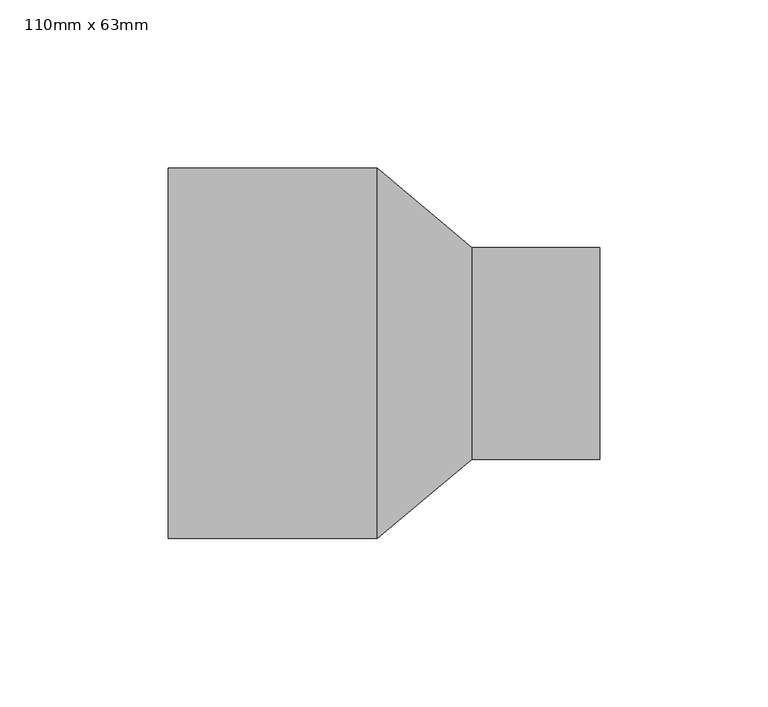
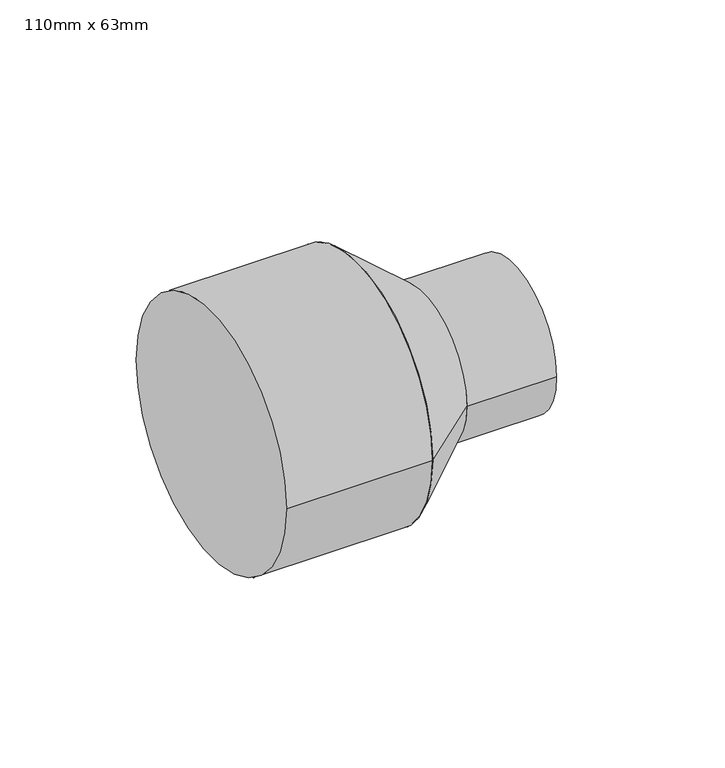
"""IFC4 building model written with IfcOpenShell, lengths in millimetres: pipe fitting geometry, PipeFitting_HTA_CPVC_ReducingBushesLongPattern : 110mm x 63mm."""

import ifcopenshell
import ifcopenshell.guid

model = None  # the IFC model being written
_history = None  # IfcOwnerHistory: only IFC2X3 demands one
_inside = {}  # id of a spatial element -> (the spatial element, [elements in it])
_under = {}  # id of a project, library or spatial element -> (it, [spatial elements below it])
_declared = {}  # id of a project -> (the project, [libraries it declares])
_typed = {}  # id of a type object -> (the type object, [elements of that type])
_made_of = {}  # id of a material, layer set ... -> (it, [elements and type objects made of it])


def new_model(schema):
    """Start an empty IFC model of exactly this schema.

    Asked for "IFC4X3", IfcOpenShell would pick the latest addendum, in which some entities
    have other attributes; the version numbers below select the first issue.
    IFC2X3 requires an IfcOwnerHistory on every rooted entity: one is made here for all.
    """
    global model, _history
    if schema == "IFC4X3":
        model = ifcopenshell.file(schema_version=(4, 3, 0, 0))
    else:
        model = ifcopenshell.file(schema=schema)
    _inside.clear()
    _under.clear()
    _declared.clear()
    _typed.clear()
    _made_of.clear()
    _history = None
    if model.schema == "IFC2X3":
        org = make("IfcOrganization", Name="unknown")
        user = make(
            "IfcPersonAndOrganization",
            ThePerson=make("IfcPerson", FamilyName="unknown"),
            TheOrganization=org,
        )
        app = make(
            "IfcApplication",
            ApplicationDeveloper=org,
            Version="unknown",
            ApplicationFullName="unknown",
            ApplicationIdentifier="unknown",
        )
        _history = make(
            "IfcOwnerHistory",
            OwningUser=user,
            OwningApplication=app,
            ChangeAction="ADDED",
            CreationDate=0,
        )
    return model


def make(cls, **values):
    """One entity of the class cls with the attributes given. An attribute that is None is left unset."""
    return model.create_entity(
        cls, **{name: value for name, value in values.items() if value is not None}
    )


def rooted(cls, **values):
    """An entity with a GlobalId (a new one), such as an element, a storey or a relation."""
    return make(cls, GlobalId=ifcopenshell.guid.new(), OwnerHistory=_history, **values)


def si_unit(unit_type, name, prefix=None):
    """IfcSIUnit, for example si_unit("LENGTHUNIT", "METRE", prefix="MILLI")."""
    return make("IfcSIUnit", UnitType=unit_type, Prefix=prefix, Name=name)


def assignment(units):
    """IfcUnitAssignment: the units of a project."""
    return None if units is None else make("IfcUnitAssignment", Units=units)


def point(xyz):
    """IfcCartesianPoint."""
    return None if xyz is None else make("IfcCartesianPoint", Coordinates=xyz)


def direction(xyz):
    """IfcDirection."""
    return None if xyz is None else make("IfcDirection", DirectionRatios=xyz)


def frame(location, z_axis=None, x_axis=None):
    """IfcAxis2Placement3D, a coordinate frame: its origin and axes. An axis left out is left unset."""
    return make(
        "IfcAxis2Placement3D",
        Location=point(location),
        Axis=direction(z_axis),
        RefDirection=direction(x_axis),
    )


def frame_2d(location, x_axis=None):
    """IfcAxis2Placement2D, a coordinate frame in the plane: its origin and x axis."""
    return make(
        "IfcAxis2Placement2D", Location=point(location), RefDirection=direction(x_axis)
    )


def origin():
    """The frame at (0, 0, 0) with its axes left unset."""
    return frame((0.0, 0.0, 0.0))


def origin_2d():
    """The frame at (0, 0) in the plane with its x axis left unset."""
    return frame_2d((0.0, 0.0))


def place(relative_to, where):
    """IfcLocalPlacement: puts the frame where relative to a parent placement (None: the world)."""
    return make(
        "IfcLocalPlacement", PlacementRelTo=relative_to, RelativePlacement=where
    )


def context(
    kind, dimensions, precision=None, world=None, true_north=None, identifier=None
):
    """IfcGeometricRepresentationContext, for example the 3D "Model" context."""
    return make(
        "IfcGeometricRepresentationContext",
        ContextIdentifier=identifier,
        ContextType=kind,
        CoordinateSpaceDimension=dimensions,
        Precision=precision,
        WorldCoordinateSystem=world,
        TrueNorth=true_north,
    )


def project(units=None, contexts=None):
    """IfcProject with its units and contexts."""
    return rooted(
        "IfcProject",
        Name="project",
        RepresentationContexts=contexts,
        UnitsInContext=assignment(units),
    )


def spatial(cls, under=None, at=None, **own):
    """A site, building, storey or space (cls), placed at a placement, below another one or the project."""
    s = rooted(cls, ObjectPlacement=at, **own)
    if under is not None:
        _under.setdefault(under.id(), (under, []))[1].append(s)
    return s


def polyline(points):
    """IfcPolyline through the points."""
    return make("IfcPolyline", Points=[point(p) for p in points])


def circle_curve(where, radius):
    """IfcCircle in the frame where."""
    return make("IfcCircle", Position=where, Radius=radius)


def trimmed(basis, trim1, trim2, sense, master):
    """IfcTrimmedCurve: the piece of a basis curve between two trims."""
    return make(
        "IfcTrimmedCurve",
        BasisCurve=basis,
        Trim1=trim1,
        Trim2=trim2,
        SenseAgreement=sense,
        MasterRepresentation=master,
    )


def segment(curve, same_sense, transition):
    """IfcCompositeCurveSegment."""
    return make(
        "IfcCompositeCurveSegment",
        Transition=transition,
        SameSense=same_sense,
        ParentCurve=curve,
    )


def composite_curve(segments, self_intersect=None):
    """IfcCompositeCurve: segments joined end to end."""
    return make("IfcCompositeCurve", Segments=segments, SelfIntersect=self_intersect)


def outline(outer, holes=None, kind="AREA"):
    """IfcArbitraryClosedProfileDef: a profile drawn as a closed curve; with holes, ...WithVoids."""
    if holes is None:
        return make("IfcArbitraryClosedProfileDef", ProfileType=kind, OuterCurve=outer)
    return make(
        "IfcArbitraryProfileDefWithVoids",
        ProfileType=kind,
        OuterCurve=outer,
        InnerCurves=holes,
    )


def extrude(swept, where, along, depth):
    """IfcExtrudedAreaSolid: the profile swept, set in the frame where, extruded along a direction by depth."""
    return make(
        "IfcExtrudedAreaSolid",
        SweptArea=swept,
        Position=where,
        ExtrudedDirection=direction(along),
        Depth=depth,
    )


def shape(context_of_items, identifier, shape_type, items):
    """IfcShapeRepresentation: the items that make up one representation, for example the "Body"."""
    return make(
        "IfcShapeRepresentation",
        ContextOfItems=context_of_items,
        RepresentationIdentifier=identifier,
        RepresentationType=shape_type,
        Items=items,
    )


def source(mapping_origin, context_of_items, identifier, shape_type, items):
    """IfcRepresentationMap: a shape defined once, which mapped items show again and again."""
    return make(
        "IfcRepresentationMap",
        MappingOrigin=mapping_origin,
        MappedRepresentation=shape(context_of_items, identifier, shape_type, items),
    )


def transform(
    local_origin,
    x_axis=None,
    y_axis=None,
    z_axis=None,
    scale=None,
    scale2=None,
    scale3=None,
    uniform=True,
):
    """IfcCartesianTransformationOperator3D, or its non-uniform kind. x_axis, y_axis, z_axis: its Axis1, 2, 3."""
    if uniform:
        return make(
            "IfcCartesianTransformationOperator3D",
            Axis1=direction(x_axis),
            Axis2=direction(y_axis),
            LocalOrigin=point(local_origin),
            Scale=scale,
            Axis3=direction(z_axis),
        )
    return make(
        "IfcCartesianTransformationOperator3DnonUniform",
        Axis1=direction(x_axis),
        Axis2=direction(y_axis),
        LocalOrigin=point(local_origin),
        Scale=scale,
        Axis3=direction(z_axis),
        Scale2=scale2,
        Scale3=scale3,
    )


def mapped(mapping_source, mapping_target):
    """IfcMappedItem: shows the shape of a source again, moved by a transform."""
    return make(
        "IfcMappedItem", MappingSource=mapping_source, MappingTarget=mapping_target
    )


def made_of(thing, what):
    """Note that an element or type object is made of a material, layer set ...; save() writes the relation."""
    if what is not None:
        _made_of.setdefault(what.id(), (what, []))[1].append(thing)
    return thing


def element(
    cls,
    number,
    at=None,
    inside=None,
    cuts=None,
    type_object=None,
    material=None,
    context=None,
    identifier="Body",
    shape_type=None,
    held_by="IfcProductDefinitionShape",
    body=None,
    shapes=None,
    **own,
):
    """One element of the class cls, such as IfcWall. Its Tag is "e" and its number.

    at: its placement. inside: the storey or other place that contains it. cuts: it is an
    opening in that element (IfcRelVoidsElement). A single representation is given by context,
    identifier, shape_type and body (its items); several are given by shapes. held_by: the class
    of the entity that holds the representations. save() writes the other relations.
    """
    e = rooted(cls, Tag="e%d" % number, ObjectPlacement=at, **own)
    if body is not None:
        shapes = [shape(context, identifier, shape_type, body)]
    if shapes is not None:
        e.Representation = make(held_by, Representations=shapes)
    if inside is not None:
        _inside.setdefault(inside.id(), (inside, []))[1].append(e)
    if cuts is not None:
        rooted(
            "IfcRelVoidsElement", RelatingBuildingElement=cuts, RelatedOpeningElement=e
        )
    if type_object is not None:
        _typed.setdefault(type_object.id(), (type_object, []))[1].append(e)
    return made_of(e, material)


def aggregate(whole, parts):
    """IfcRelAggregates: a whole, such as a stair, and the parts it consists of."""
    return rooted("IfcRelAggregates", RelatingObject=whole, RelatedObjects=parts)


def save(model, path):
    """Write the relations noted so far, then the file.

    IfcRelAggregates (storeys below a building ...), IfcRelContainedInSpatialStructure (elements
    in a storey), IfcRelDefinesByType, IfcRelAssociatesMaterial and IfcRelDeclares: one each for
    every whole, place, type object, material and project.
    """
    for whole, parts in _under.values():
        aggregate(whole, parts)
    for where, things in _inside.values():
        rooted(
            "IfcRelContainedInSpatialStructure",
            RelatedElements=things,
            RelatingStructure=where,
        )
    for kind, things in _typed.values():
        rooted("IfcRelDefinesByType", RelatedObjects=things, RelatingType=kind)
    for what, things in _made_of.values():
        rooted("IfcRelAssociatesMaterial", RelatedObjects=things, RelatingMaterial=what)
    for by, libraries in _declared.values():
        rooted("IfcRelDeclares", RelatingContext=by, RelatedDefinitions=libraries)
    model.write(path)


def plane_surface(at):
    """IfcPlane: the flat surface through the origin of the frame at, square to its z axis."""
    return make("IfcPlane", Position=at)


def revolved_surface(curve, axis_point, axis_direction):
    """IfcSurfaceOfRevolution: the curve turned about the line through axis_point along axis_direction."""
    return make(
        "IfcSurfaceOfRevolution",
        SweptCurve=make("IfcArbitraryOpenProfileDef", ProfileType="CURVE", Curve=curve),
        AxisPosition=make("IfcAxis1Placement", Location=point(axis_point), Axis=direction(axis_direction)),
    )


def advanced_brep(points, edges, surfaces, faces):
    """IfcAdvancedBrep: a solid bounded by faces that lie on surfaces and meet in shared edges.

    An edge is (start, end): straight between two places in points (the first is 0);
    or (start, end, curve); or (start, end, curve, False) where it runs against its curve.
    A face is (place in surfaces, loops), or (place, loops, False) where it looks against
    its surface's normal. A loop lists edges by number (the first is 1), with a minus sign
    where the edge is run from its end to its start. The first loop is the outer one.
    """
    corners = [point(p) for p in points]
    vertices = [make("IfcVertexPoint", VertexGeometry=c) for c in corners]
    made = []
    for start, end, *more in edges:
        made.append(
            make(
                "IfcEdgeCurve",
                EdgeStart=vertices[start],
                EdgeEnd=vertices[end],
                EdgeGeometry=more[0] if more else make("IfcPolyline", Points=[corners[start], corners[end]]),
                SameSense=more[1] if len(more) > 1 else True,
            )
        )
    hull = []
    for where, loops, *sense in faces:
        bounds = []
        for j, loop in enumerate(loops):
            ring = [make("IfcOrientedEdge", EdgeElement=made[abs(k) - 1], Orientation=k > 0) for k in loop]
            bounds.append(
                make(
                    "IfcFaceOuterBound" if j == 0 else "IfcFaceBound",
                    Bound=make("IfcEdgeLoop", EdgeList=ring),
                    Orientation=True,
                )
            )
        hull.append(make("IfcAdvancedFace", Bounds=bounds, FaceSurface=surfaces[where], SameSense=sense[0] if sense else True))
    return make("IfcAdvancedBrep", Outer=make("IfcClosedShell", CfsFaces=hull))


def pipe_fitting_110mm_x_63mm_6b177432(model_context):
    return source(origin(), model_context, "Body", "SolidModel", [
        advanced_brep(
        [(90.0, -31.5, 0.0), (90.0, 31.5, 0.0), (62.0, -55.0, 0.0), (62.0, 55.0, 0.0)],
        [
            (0, 1, circle_curve(frame((90.0, 0.0, 0.0), z_axis=(1.0, 0.0, 0.0), x_axis=(0.0, -1.0, 0.0)), 31.5)),
            (1, 0, circle_curve(frame((90.0, 0.0, 0.0), z_axis=(1.0, 0.0, 0.0), x_axis=(0.0, 1.0, 0.0)), 31.5)),
            (2, 3, circle_curve(frame((62.0, 0.0, 0.0), z_axis=(-1.0, 0.0, 0.0), x_axis=(0.0, 1.0, 0.0)), 55.0)),
            (3, 2, circle_curve(frame((62.0, 0.0, 0.0), z_axis=(-1.0, 0.0, 0.0), x_axis=(0.0, -1.0, 0.0)), 55.0)),
            (3, 1),
            (0, 2),
        ],
        [
            plane_surface(frame((90.0, 0.0, 0.0), z_axis=(1.0, 0.0, 0.0), x_axis=(0.0, 0.0, -1.0))),
            plane_surface(frame((62.0, 0.0, 0.0), z_axis=(-1.0, 0.0, 0.0), x_axis=(0.0, 0.0, -1.0))),
            revolved_surface(polyline([(90.0, -31.500000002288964, 0.0), (62.0, -55.0, 0.0)]), (127.5319149, 0.0, 0.0), (-1.0, 0.0, 0.0)),
            revolved_surface(polyline([(90.0, 31.500000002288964, 0.0), (62.0, 55.0, 0.0)]), (127.5319149, 0.0, 0.0), (-1.0, 0.0, 0.0)),
        ],
        [
            (0, [[1, 2]]),
            (1, [[3, 4]]),
            (2, [[-4, 5, -1, 6]]),
            (3, [[-3, -6, -2, -5]]),
        ],
    ),
        extrude(outline(composite_curve([segment(trimmed(circle_curve(origin_2d(), 31.5), [point((-31.5, 0.0))], [point((31.5, 0.0))], False, "CARTESIAN"), True, "CONTINUOUS"), segment(trimmed(circle_curve(origin_2d(), 31.5), [point((31.5, 0.0))], [point((-31.5, 0.0))], False, "CARTESIAN"), True, "CONTINUOUS")], self_intersect=False)), frame((90.0, 0.0, 0.0), z_axis=(1.0, 0.0, 0.0), x_axis=(0.0, 1.0, 0.0)), (0.0, 0.0, 1.0), 38.0),
        extrude(outline(composite_curve([segment(trimmed(circle_curve(origin_2d(), 55.0), [point((-55.0, 0.0))], [point((55.0, 0.0))], False, "CARTESIAN"), True, "CONTINUOUS"), segment(trimmed(circle_curve(origin_2d(), 55.0), [point((55.0, 0.0))], [point((-55.0, 0.0))], False, "CARTESIAN"), True, "CONTINUOUS")], self_intersect=False)), frame((0.0, 0.0, 0.0), z_axis=(1.0, 0.0, 0.0), x_axis=(0.0, 1.0, 0.0)), (0.0, 0.0, 1.0), 62.0),
    ])


if __name__ == "__main__":
    model = new_model("IFC4")
    model_context = context("Model", 3, world=origin())
    ifc_project = project(units=[si_unit("LENGTHUNIT", "METRE", prefix="MILLI")], contexts=[model_context])
    site = spatial("IfcSite", under=ifc_project)
    building = spatial("IfcBuilding", under=site)
    placement = place(None, origin())
    pipe_fitting_110mm_x_63mm_shape = pipe_fitting_110mm_x_63mm_6b177432(model_context)
    element("IfcPipeFitting", 1, ObjectType="PipeFitting_HTA_CPVC_ReducingBushesLongPattern : 110mm x 63mm", at=placement, inside=building, context=model_context, shape_type="MappedRepresentation", body=[
        mapped(pipe_fitting_110mm_x_63mm_shape, transform((0.0, 0.0, 0.0), x_axis=(1.0, 0.0, 0.0), y_axis=(0.0, 1.0, 0.0), z_axis=(0.0, 0.0, 1.0))),
    ])
    save(model, "model.ifc")
